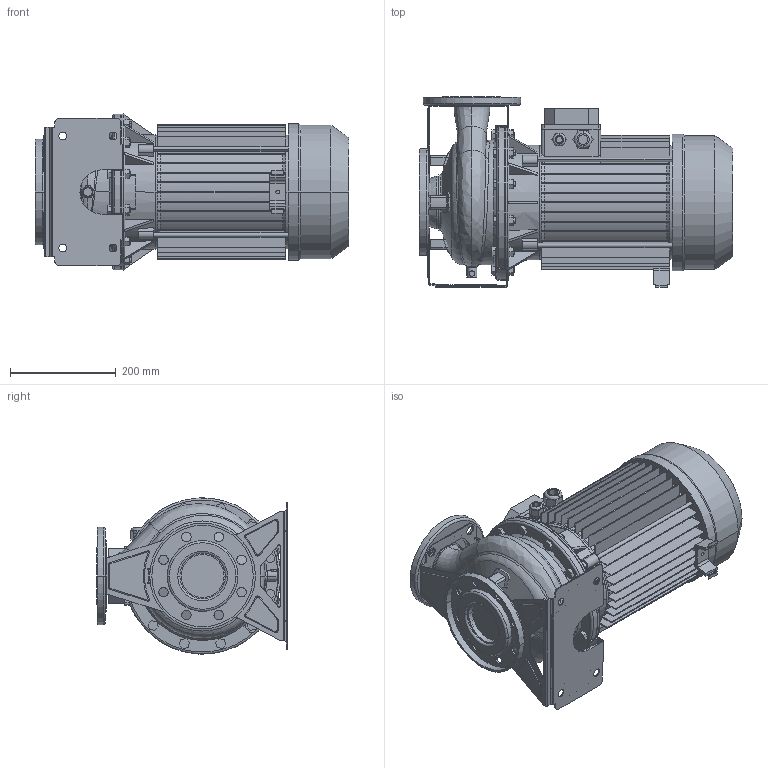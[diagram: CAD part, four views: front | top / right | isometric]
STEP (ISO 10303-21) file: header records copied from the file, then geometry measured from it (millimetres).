
FILE_DESCRIPTION((''),'2;1');
FILE_NAME('3M_65-160_116_60HZ_ASM','2009-12-04T',('Utente'),('"Ebara Pumps Europe +39.444.706811"'),'PRO/ENGINEER BY PARAMETRIC TECHNOLOGY CORPORATION, 2008400','PRO/ENGINEER BY PARAMETRIC TECHNOLOGY CORPORATION, 2008400','');
FILE_SCHEMA(('AUTOMOTIVE_DESIGN { 1 0 10303 214 1 1 1 1 }'));
Length unit declared in the file: millimetre
Products named in the file (11): CORPO_65-160; ASP_65-160; FLANGIA_DIN_80_8_FORI; MAND_65-160; FLANGIA_DIN_65; BASE_3M_65-160; CORPO_SALDATO_65-160_ASM; SUPPORTO_3M_230_132; MEC_132; SOSTEGNO_72010; 3M_65-160_116_60HZ_ASM
Assembly tree (10 placements, depth 3):
  3M_65-160_116_60HZ_ASM
    CORPO_SALDATO_65-160_ASM
      CORPO_65-160
      ASP_65-160
      FLANGIA_DIN_80_8_FORI
      MAND_65-160
      FLANGIA_DIN_65
      BASE_3M_65-160
    SUPPORTO_3M_230_132
    MEC_132
    SOSTEGNO_72010
Bounding box: 594 x 360 x 295.59 mm (x, y, z)
Volume: 16684525.5 mm3; surface area: 1874078.6 mm2
Topology: 12 solids, 12 shells, 1193 faces, 3033 edges, 1938 vertices
Faces by surface type: plane 670, cylinder 328, cone 94, torus 62, bspline 33, sphere 6
Entity records: 40188 total; most frequent: CARTESIAN_POINT 10499, DIRECTION 6200, ORIENTED_EDGE 6066, EDGE_CURVE 3033, AXIS2_PLACEMENT_3D 2229, VERTEX_POINT 1938, VECTOR 1742, LINE 1742
